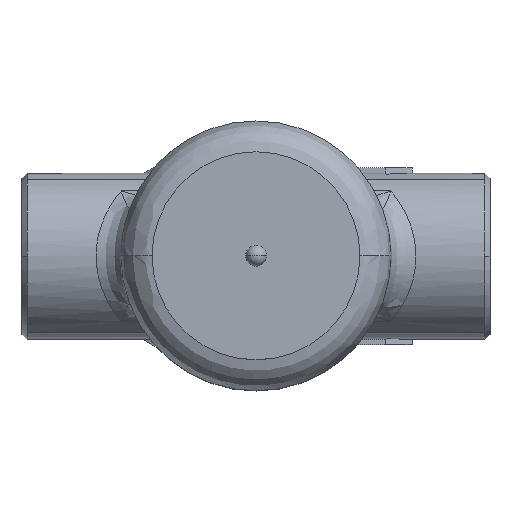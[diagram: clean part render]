
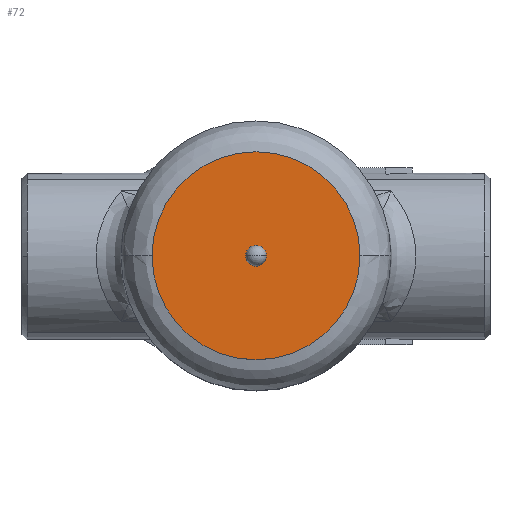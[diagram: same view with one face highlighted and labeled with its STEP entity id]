
A CAD part, top view. The second image highlights one B-rep face of the part: STEP entity #72.
In plain terms, the highlighted planar face has unit normal (0, 0, 1).
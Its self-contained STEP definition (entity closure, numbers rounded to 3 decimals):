
#72=ADVANCED_FACE('',(#452,#453),#451,.F.);
#451=PLANE('',#1638);
#452=FACE_OUTER_BOUND('',#1639,.T.);
#453=FACE_BOUND('',#1640,.T.);
#1635=CARTESIAN_POINT('',(68.995,-41.565,59.596));
#1636=DIRECTION('',(0.,0.,-1.));
#1637=DIRECTION('',(-1.,0.,0.));
#1638=AXIS2_PLACEMENT_3D('',#1635,#1636,#1637);
#1639=EDGE_LOOP('',(#2957,#2958));
#1640=EDGE_LOOP('',(#2959,#2960));
#2957=ORIENTED_EDGE('',*,*,#3332,.F.);
#2958=ORIENTED_EDGE('',*,*,#3333,.F.);
#2959=ORIENTED_EDGE('',*,*,#3334,.T.);
#2960=ORIENTED_EDGE('',*,*,#3335,.T.);
#3332=EDGE_CURVE('',#4177,#4178,#4179,.T.);
#3333=EDGE_CURVE('',#4178,#4177,#4185,.T.);
#3334=EDGE_CURVE('',#4191,#4192,#4193,.T.);
#3335=EDGE_CURVE('',#4192,#4191,#4199,.T.);
#4177=VERTEX_POINT('',#5659);
#4178=VERTEX_POINT('',#5660);
#4179=CIRCLE('',#5664,19.998);
#4185=CIRCLE('',#5668,19.998);
#4191=VERTEX_POINT('',#5669);
#4192=VERTEX_POINT('',#5670);
#4193=CIRCLE('',#5674,2.);
#4199=CIRCLE('',#5678,2.);
#5659=CARTESIAN_POINT('',(42.998,0.,59.596));
#5660=CARTESIAN_POINT('',(3.002,0.,59.596));
#5661=CARTESIAN_POINT('',(23.,0.,59.596));
#5662=DIRECTION('',(0.,0.,-1.));
#5663=DIRECTION('',(-1.,0.,0.));
#5664=AXIS2_PLACEMENT_3D('',#5661,#5662,#5663);
#5665=CARTESIAN_POINT('',(23.,0.,59.596));
#5666=DIRECTION('',(0.,0.,-1.));
#5667=DIRECTION('',(-1.,0.,0.));
#5668=AXIS2_PLACEMENT_3D('',#5665,#5666,#5667);
#5669=CARTESIAN_POINT('',(21.,0.,59.596));
#5670=CARTESIAN_POINT('',(25.,0.,59.596));
#5671=CARTESIAN_POINT('',(23.,0.,59.596));
#5672=DIRECTION('',(0.,0.,-1.));
#5673=DIRECTION('',(-1.,0.,0.));
#5674=AXIS2_PLACEMENT_3D('',#5671,#5672,#5673);
#5675=CARTESIAN_POINT('',(23.,0.,59.596));
#5676=DIRECTION('',(0.,0.,-1.));
#5677=DIRECTION('',(-1.,0.,0.));
#5678=AXIS2_PLACEMENT_3D('',#5675,#5676,#5677);
